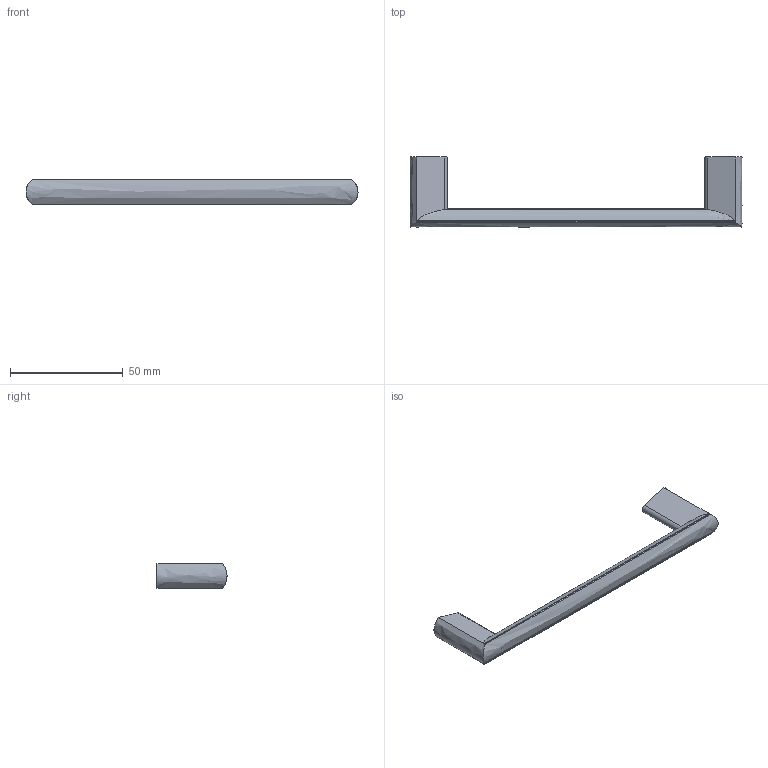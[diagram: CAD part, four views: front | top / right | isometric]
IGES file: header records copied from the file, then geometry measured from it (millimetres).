
Start section: Data from Parasolid IGES Translator 15.0.47, Copyright(c) 2006 Siemens P LM Software. All Rights Reserved.
Global section: file name: 9113183.igs; native system:  By UGS Corp.; preprocessor: XPlus GENERIC/IGES 3.0; author: Noname; organization: Noname; date: 20140122.153235; units: millimetre
Bounding box: 147 x 31 x 11 mm (x, y, z)
Surface area: 6857.1 mm2 (no closed solid volume)
Topology: 0 solids, 0 shells, 27 faces, 130 edges, 128 vertices
Faces by surface type: revolution 14, extrusion 13
